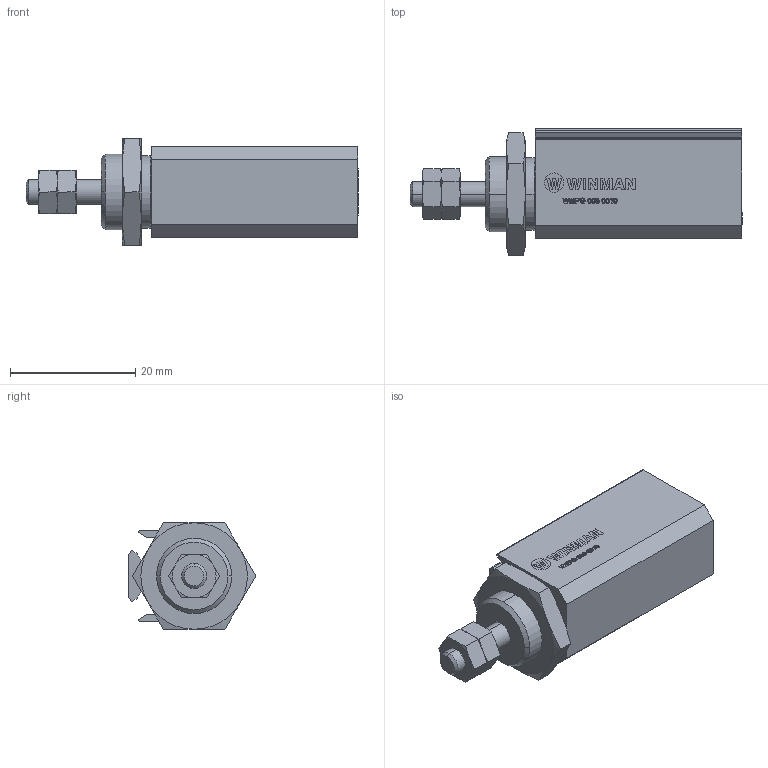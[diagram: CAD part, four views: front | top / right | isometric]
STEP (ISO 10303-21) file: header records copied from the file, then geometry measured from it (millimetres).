
FILE_DESCRIPTION (( 'STEP AP214' ), '1' );
FILE_NAME ('WMPG-008-0010 (3D).STEP', '2020-11-24T14:53:14', ( '' ), ( '' ), 'SwSTEP 2.0', 'SolidWorks 2016', '' );
FILE_SCHEMA (( 'AUTOMOTIVE_DESIGN' ));
Length unit declared in the file: millimetre
Products named in the file (5): WMPG-008-0010-nut2; WMPG-008-0010-nut1; WMPG-008-0010 (3D); WMPG-008-0010-B; WMPG-008-0010-R
Assembly tree (5 placements, depth 2):
  WMPG-008-0010 (3D)
    WMPG-008-0010-B
    WMPG-008-0010-R
    WMPG-008-0010-nut2  x2
    WMPG-008-0010-nut1
Bounding box: 53 x 20.32 x 17 mm (x, y, z)
Volume: 8066.6 mm3; surface area: 5630.6 mm2
Topology: 5 solids, 5 shells, 397 faces, 985 edges, 636 vertices
Faces by surface type: plane 208, bspline 83, cone 62, cylinder 44
Entity records: 18352 total; most frequent: CARTESIAN_POINT 7189, ORIENTED_EDGE 1858, DIRECTION 1443, EDGE_CURVE 929, VERTEX_POINT 604, VECTOR 583, LINE 583, AXIS2_PLACEMENT_3D 430
